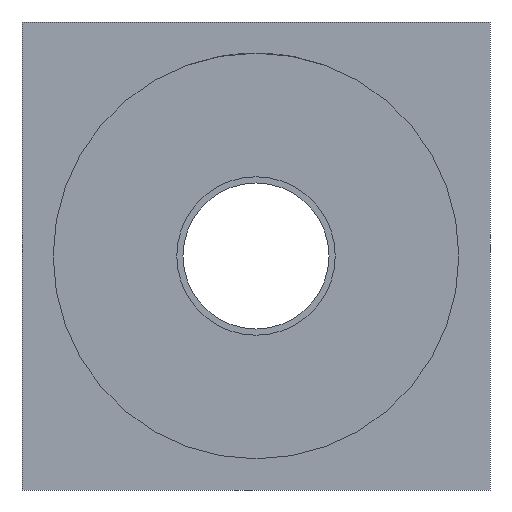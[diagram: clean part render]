
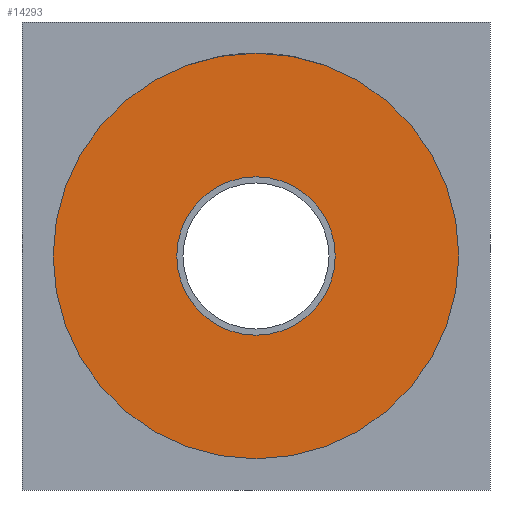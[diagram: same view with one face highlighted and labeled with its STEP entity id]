
A CAD part, front view. The second image highlights one B-rep face of the part: STEP entity #14293.
In plain terms, the highlighted planar face has unit normal (0, -1, 0).
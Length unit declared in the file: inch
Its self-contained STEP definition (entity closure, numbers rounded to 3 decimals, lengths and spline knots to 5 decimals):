
#13761=CARTESIAN_POINT('',(5.11811,2.99213,0.0));
#13762=VERTEX_POINT('',#13761);
#13763=CARTESIAN_POINT('',(0.0,2.99213,0.0));
#13764=DIRECTION('',(0.0,-1.0,0.0));
#13765=DIRECTION('',(1.0,0.0,0.0));
#13766=AXIS2_PLACEMENT_3D('',#13763,#13764,#13765);
#13767=CIRCLE('',#13766,5.11811);
#13768=EDGE_CURVE('',#13762,#13762,#13767,.T.);
#14274=CARTESIAN_POINT('',(3.55906,2.99213,0.0));
#14275=DIRECTION('',(0.0,-1.0,0.0));
#14276=DIRECTION('',(0.0,0.0,-1.0));
#14277=AXIS2_PLACEMENT_3D('',#14274,#14275,#14276);
#14278=PLANE('',#14277);
#14279=ORIENTED_EDGE('',*,*,#13768,.T.);
#14280=EDGE_LOOP('',(#14279));
#14281=FACE_OUTER_BOUND('',#14280,.T.);
#14282=CARTESIAN_POINT('',(2.,2.99213,0.0));
#14283=VERTEX_POINT('',#14282);
#14284=CARTESIAN_POINT('',(0.0,2.99213,0.0));
#14285=DIRECTION('',(0.0,-1.0,0.0));
#14286=DIRECTION('',(1.0,0.0,0.0));
#14287=AXIS2_PLACEMENT_3D('',#14284,#14285,#14286);
#14288=CIRCLE('',#14287,2.);
#14289=EDGE_CURVE('',#14283,#14283,#14288,.T.);
#14290=ORIENTED_EDGE('',*,*,#14289,.F.);
#14291=EDGE_LOOP('',(#14290));
#14292=FACE_BOUND('',#14291,.T.);
#14293=ADVANCED_FACE('',(#14281,#14292),#14278,.T.);
